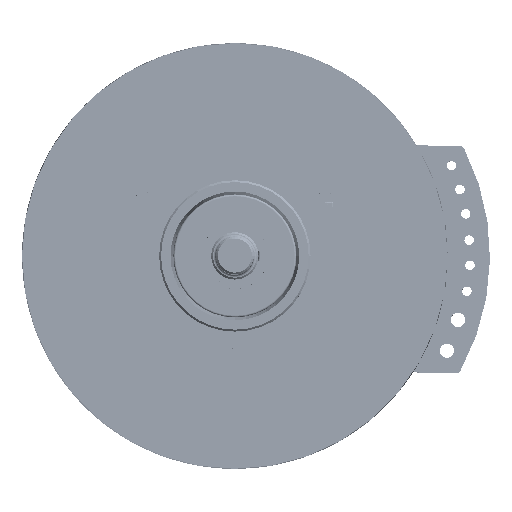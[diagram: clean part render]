
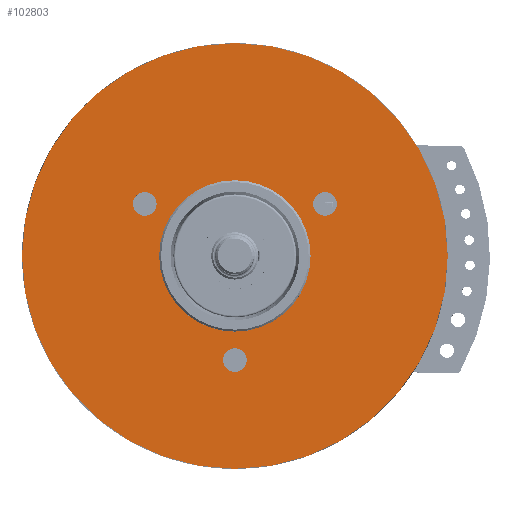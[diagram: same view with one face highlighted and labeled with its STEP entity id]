
A CAD part, top view. The second image highlights one B-rep face of the part: STEP entity #102803.
In plain terms, the highlighted planar face has unit normal (0, 0, 1).
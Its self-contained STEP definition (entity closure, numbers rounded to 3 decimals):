
#1139=CARTESIAN_POINT('',(0.,0.,30.8));
#1140=DIRECTION('',(0.,0.,1.));
#1141=DIRECTION('',(-1.,0.,0.));
#1142=AXIS2_PLACEMENT_3D('',#1139,#1140,#1141);
#1144=CARTESIAN_POINT('',(0.,0.,30.8));
#1145=DIRECTION('',(0.,0.,1.));
#1146=DIRECTION('',(1.,0.,0.));
#1147=AXIS2_PLACEMENT_3D('',#1144,#1145,#1146);
#1149=CARTESIAN_POINT('',(0.,-11.,30.8));
#1150=DIRECTION('',(0.,0.,-1.));
#1151=DIRECTION('',(0.5,0.866,0.));
#1152=AXIS2_PLACEMENT_3D('',#1149,#1150,#1151);
#1154=CARTESIAN_POINT('',(0.,-11.,30.8));
#1155=DIRECTION('',(0.,0.,-1.));
#1156=DIRECTION('',(-0.5,-0.866,0.));
#1157=AXIS2_PLACEMENT_3D('',#1154,#1155,#1156);
#1159=CARTESIAN_POINT('',(-9.526,5.5,30.8));
#1160=DIRECTION('',(0.,0.,-1.));
#1161=DIRECTION('',(0.5,-0.866,0.));
#1162=AXIS2_PLACEMENT_3D('',#1159,#1160,#1161);
#1164=CARTESIAN_POINT('',(-9.526,5.5,30.8));
#1165=DIRECTION('',(0.,0.,-1.));
#1166=DIRECTION('',(-0.5,0.866,0.));
#1167=AXIS2_PLACEMENT_3D('',#1164,#1165,#1166);
#1169=CARTESIAN_POINT('',(9.526,5.5,30.8));
#1170=DIRECTION('',(0.,0.,-1.));
#1171=DIRECTION('',(1.,0.,0.));
#1172=AXIS2_PLACEMENT_3D('',#1169,#1170,#1171);
#1174=CARTESIAN_POINT('',(9.526,5.5,30.8));
#1175=DIRECTION('',(0.,0.,-1.));
#1176=DIRECTION('',(-1.,0.,0.));
#1177=AXIS2_PLACEMENT_3D('',#1174,#1175,#1176);
#1179=CARTESIAN_POINT('',(0.,0.,30.8));
#1180=DIRECTION('',(0.,0.,1.));
#1181=DIRECTION('',(1.,0.,0.));
#1182=AXIS2_PLACEMENT_3D('',#1179,#1180,#1181);
#1184=CARTESIAN_POINT('',(0.,0.,30.8));
#1185=DIRECTION('',(0.,0.,1.));
#1186=DIRECTION('',(-1.,0.,0.));
#1187=AXIS2_PLACEMENT_3D('',#1184,#1185,#1186);
#87244=CARTESIAN_POINT('',(-22.5,0.,30.8));
#87245=CARTESIAN_POINT('',(22.5,0.,30.8));
#87246=VERTEX_POINT('',#87244);
#87247=VERTEX_POINT('',#87245);
#87248=CARTESIAN_POINT('',(0.625,-9.917,30.8));
#87249=CARTESIAN_POINT('',(-0.625,-12.083,30.8));
#87250=VERTEX_POINT('',#87248);
#87251=VERTEX_POINT('',#87249);
#87252=CARTESIAN_POINT('',(-8.901,4.417,30.8));
#87253=CARTESIAN_POINT('',(-10.151,6.583,30.8));
#87254=VERTEX_POINT('',#87252);
#87255=VERTEX_POINT('',#87253);
#87256=CARTESIAN_POINT('',(10.776,5.5,30.8));
#87257=CARTESIAN_POINT('',(8.276,5.5,30.8));
#87258=VERTEX_POINT('',#87256);
#87259=VERTEX_POINT('',#87257);
#87260=CARTESIAN_POINT('',(8.,0.,30.8));
#87261=CARTESIAN_POINT('',(-8.,0.,30.8));
#87262=VERTEX_POINT('',#87260);
#87263=VERTEX_POINT('',#87261);
#102770=CARTESIAN_POINT('',(0.,0.,30.8));
#102771=DIRECTION('',(0.,0.,1.));
#102772=DIRECTION('',(-1.,0.,0.));
#102773=AXIS2_PLACEMENT_3D('',#102770,#102771,#102772);
#102774=PLANE('',#102773);
#102776=ORIENTED_EDGE('',*,*,#102775,.F.);
#102778=ORIENTED_EDGE('',*,*,#102777,.F.);
#102779=EDGE_LOOP('',(#102776,#102778));
#102780=FACE_OUTER_BOUND('',#102779,.F.);
#102782=ORIENTED_EDGE('',*,*,#102781,.F.);
#102784=ORIENTED_EDGE('',*,*,#102783,.F.);
#102785=EDGE_LOOP('',(#102782,#102784));
#102786=FACE_BOUND('',#102785,.F.);
#102787=ORIENTED_EDGE('',*,*,#102764,.F.);
#102788=ORIENTED_EDGE('',*,*,#102750,.F.);
#102789=EDGE_LOOP('',(#102787,#102788));
#102790=FACE_BOUND('',#102789,.F.);
#102792=ORIENTED_EDGE('',*,*,#102791,.F.);
#102794=ORIENTED_EDGE('',*,*,#102793,.F.);
#102795=EDGE_LOOP('',(#102792,#102794));
#102796=FACE_BOUND('',#102795,.F.);
#102798=ORIENTED_EDGE('',*,*,#102797,.T.);
#102800=ORIENTED_EDGE('',*,*,#102799,.T.);
#102801=EDGE_LOOP('',(#102798,#102800));
#102802=FACE_BOUND('',#102801,.F.);
#102803=ADVANCED_FACE('',(#102780,#102786,#102790,#102796,#102802),#102774,.T.);
#1143=CIRCLE('',#1142,22.5);
#1148=CIRCLE('',#1147,22.5);
#1153=CIRCLE('',#1152,1.25);
#1158=CIRCLE('',#1157,1.25);
#1163=CIRCLE('',#1162,1.25);
#1168=CIRCLE('',#1167,1.25);
#1173=CIRCLE('',#1172,1.25);
#1178=CIRCLE('',#1177,1.25);
#1183=CIRCLE('',#1182,8.);
#1188=CIRCLE('',#1187,8.);
#102750=EDGE_CURVE('',#87255,#87254,#1168,.T.);
#102764=EDGE_CURVE('',#87254,#87255,#1163,.T.);
#102775=EDGE_CURVE('',#87246,#87247,#1143,.T.);
#102777=EDGE_CURVE('',#87247,#87246,#1148,.T.);
#102781=EDGE_CURVE('',#87250,#87251,#1153,.T.);
#102783=EDGE_CURVE('',#87251,#87250,#1158,.T.);
#102791=EDGE_CURVE('',#87258,#87259,#1173,.T.);
#102793=EDGE_CURVE('',#87259,#87258,#1178,.T.);
#102797=EDGE_CURVE('',#87262,#87263,#1183,.T.);
#102799=EDGE_CURVE('',#87263,#87262,#1188,.T.);
